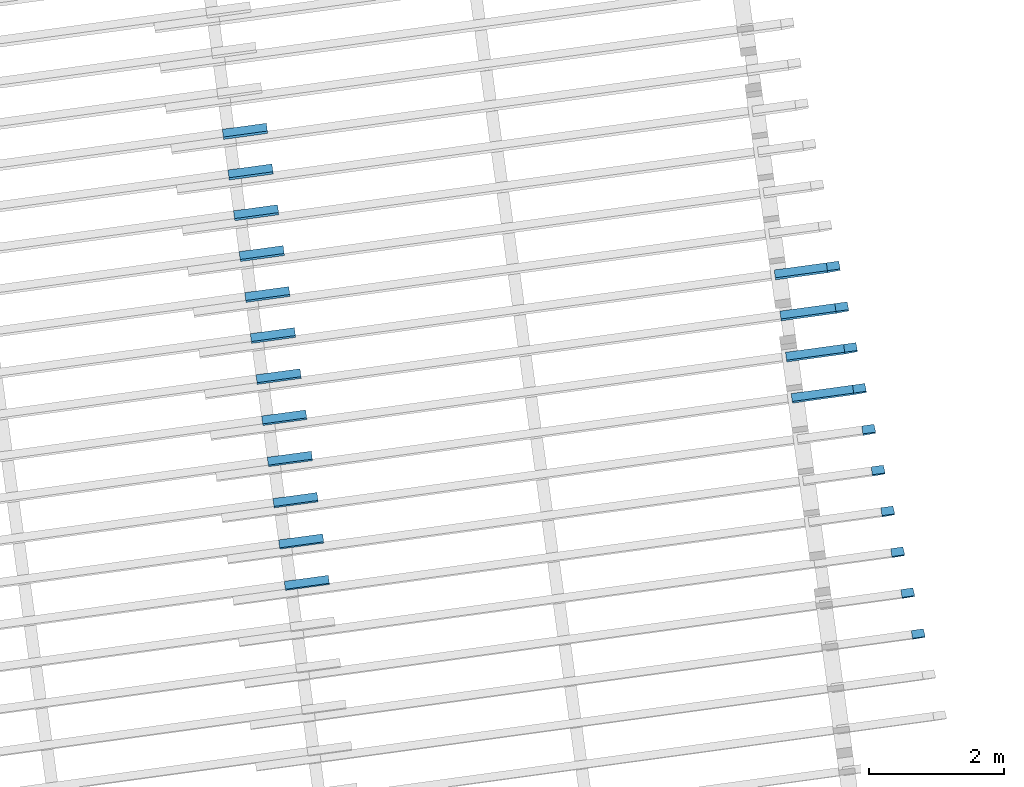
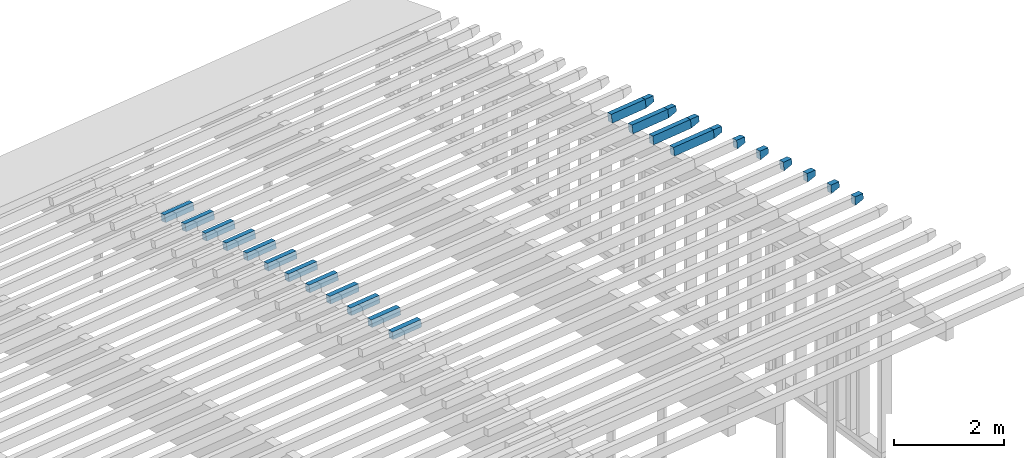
# One storey, part 17 of 18: 26 building element parts, 22 elements without a shape of their own.
"""IFC2X3 building model written with IfcOpenShell, lengths in metres."""

from ifc_helpers import new_model, entity, si_unit, converted_unit, derived_unit, money_unit, direction, frame, origin_with_axes, place, context, subcontext, project, spatial, faceted_brep, material, type_object, element, aggregate, save


model = new_model("IFC2X3")

# Units and contexts
model_context = context("Model", 3, precision=1e-05, world=origin_with_axes(), true_north=direction((0.0, 1.0)))
body_context = subcontext(model_context, "Body", "Model", "MODEL_VIEW")
ifc_project = project(units=[si_unit("LENGTHUNIT", "METRE"), si_unit("AREAUNIT", "SQUARE_METRE"), si_unit("VOLUMEUNIT", "CUBIC_METRE"), converted_unit("PLANEANGLEUNIT", "DEGREE", entity("IfcPlaneAngleMeasure", 0.0174532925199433), si_unit("PLANEANGLEUNIT", "RADIAN"), dimensions=[0, 0, 0, 0, 0, 0, 0]), money_unit("EUR"), converted_unit("TIMEUNIT", "Year", entity("IfcTimeMeasure", 31557600.0), si_unit("TIMEUNIT", "SECOND"), dimensions=[0, 0, 1, 0, 0, 0, 0]), si_unit("MASSUNIT", "GRAM", prefix="KILO"), si_unit("THERMODYNAMICTEMPERATUREUNIT", "DEGREE_CELSIUS"), si_unit("LUMINOUSINTENSITYUNIT", "LUMEN"), si_unit("ENERGYUNIT", "JOULE", prefix="MEGA"), derived_unit("THERMALCONDUCTANCEUNIT", [(si_unit("POWERUNIT", "WATT"), 1), (si_unit("LENGTHUNIT", "METRE"), -1), (si_unit("THERMODYNAMICTEMPERATUREUNIT", "KELVIN"), -1)]), derived_unit("SPECIFICHEATCAPACITYUNIT", [(si_unit("ENERGYUNIT", "JOULE"), 1), (si_unit("MASSUNIT", "GRAM", prefix="KILO"), -1), (si_unit("THERMODYNAMICTEMPERATUREUNIT", "KELVIN"), -1)]), derived_unit("MASSDENSITYUNIT", [(si_unit("MASSUNIT", "GRAM", prefix="KILO"), 1), (si_unit("VOLUMEUNIT", "CUBIC_METRE"), -1)])], contexts=[model_context])

# Site, building, storey
site_placement = place(None, origin_with_axes())
site = spatial("IfcSite", under=ifc_project, at=site_placement, Name="Gelände", CompositionType="ELEMENT")
building_placement = place(site_placement, origin_with_axes())
building = spatial("IfcBuilding", under=site, at=building_placement, Name="Gebäude", CompositionType="ELEMENT")
storey_placement = place(building_placement, frame((0.0, 0.0, 5.5), z_axis=(0.0, 0.0, 1.0), x_axis=(1.0, 0.0, 0.0)))
storey = spatial("IfcBuildingStorey", under=building, at=storey_placement, Name="OG", CompositionType="ELEMENT", Elevation=5.5)

# Beam, building element part
beam_type_1 = type_object("IfcBeamType", Name="Verschiedene Strukturen - 3 Segmente - 120 x 200 x 12890 (660+11570+660)", PredefinedType="NOTDEFINED")
beam_1_placement = place(storey_placement, frame((92.94976169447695, -144.1076839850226, 4.448573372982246), z_axis=(0.0, 0.0, 1.0), x_axis=(0.1357111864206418, -0.9907484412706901, 0.0)))
beam_1 = element("IfcBeam", 1, at=beam_1_placement, inside=storey, type_object=beam_type_1, Name="Unterzug-031")
ifc_material = material(Name="Bauholz")
building_element_part_1_placement = place(beam_1_placement, origin_with_axes())
building_element_part_1 = element("IfcBuildingElementPart", 2, at=building_element_part_1_placement, material=ifc_material, Name="Bauholz", context=body_context, shape_type="Brep", body=[
    faceted_brep([(-0.03839909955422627, 12.22957971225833, -0.1665097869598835), (-0.03839909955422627, 12.88957971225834, -0.1665097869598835), (0.08055505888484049, 12.88957971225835, -0.1507013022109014), (0.08055505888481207, 12.22957971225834, -0.1507013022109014), (-0.05947707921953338, 12.22957971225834, -0.007904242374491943), (-0.05947707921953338, 12.88957971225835, -0.007904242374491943), (0.05947707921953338, 12.88957971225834, 0.007904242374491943), (0.05947707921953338, 12.22957971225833, 0.007904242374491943)], [[[0, 1, 2, 3]], [[4, 5, 1, 0]], [[2, 1, 5, 6]], [[3, 2, 6, 7]], [[4, 0, 3, 7]], [[7, 6, 5, 4]]]),
])
aggregate(beam_1, [building_element_part_1])

beam_2_placement = place(storey_placement, frame((93.11820253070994, -145.3373725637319, 4.600733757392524), z_axis=(0.0, 0.0, 1.0), x_axis=(0.1357111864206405, -0.9907484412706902, 0.0)))
beam_2 = element("IfcBeam", 3, at=beam_2_placement, inside=storey, type_object=beam_type_1, Name="Unterzug-031")
building_element_part_2_placement = place(beam_2_placement, origin_with_axes())
building_element_part_2 = element("IfcBuildingElementPart", 4, at=building_element_part_2_placement, material=ifc_material, Name="Bauholz", context=body_context, shape_type="Brep", body=[
    faceted_brep([(-0.04176212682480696, 12.22957971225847, -0.1656982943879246), (-0.04176212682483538, 12.88957971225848, -0.1656982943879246), (0.07748768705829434, 12.88957971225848, -0.1523012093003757), (0.07748768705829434, 12.22957971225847, -0.1523012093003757), (-0.05962490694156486, 12.22957971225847, -0.006698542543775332), (-0.05962490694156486, 12.88957971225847, -0.006698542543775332), (0.05962490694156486, 12.88957971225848, 0.006698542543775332), (0.05962490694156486, 12.22957971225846, 0.006698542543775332)], [[[0, 1, 2, 3]], [[4, 5, 1, 0]], [[2, 1, 5, 6]], [[3, 2, 6, 7]], [[4, 0, 3, 7]], [[7, 6, 5, 4]]]),
])
aggregate(beam_2, [building_element_part_2])

beam_3_placement = place(storey_placement, frame((93.0339298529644, -144.7221467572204, 4.527794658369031), z_axis=(0.0, 0.0, 1.0), x_axis=(0.1357111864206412, -0.9907484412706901, 0.0)))
beam_3 = element("IfcBeam", 5, at=beam_3_placement, inside=storey, type_object=beam_type_1, Name="Unterzug-031")
building_element_part_3_placement = place(beam_3_placement, origin_with_axes())
building_element_part_3 = element("IfcBuildingElementPart", 6, at=building_element_part_3_placement, material=ifc_material, Name="Bauholz", context=body_context, shape_type="Brep", body=[
    faceted_brep([(-0.04008266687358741, 12.2295797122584, -0.1661125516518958), (-0.04008266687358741, 12.88957971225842, -0.1661125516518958), (0.07902542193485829, 12.88957971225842, -0.1515090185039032), (0.07902542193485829, 12.22957971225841, -0.1515090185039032), (-0.05955404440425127, 12.2295797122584, -0.00730176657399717), (-0.05955404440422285, 12.88957971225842, -0.00730176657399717), (0.05955404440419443, 12.88957971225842, 0.00730176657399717), (0.05955404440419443, 12.22957971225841, 0.00730176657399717)], [[[0, 1, 2, 3]], [[4, 5, 1, 0]], [[2, 1, 5, 6]], [[3, 2, 6, 7]], [[4, 0, 3, 7]], [[7, 6, 5, 4]]]),
])
aggregate(beam_3, [building_element_part_3])

beam_4_placement = place(storey_placement, frame((92.19837051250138, -138.6222139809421, 3.454434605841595), z_axis=(0.0, 0.0, 1.0), x_axis=(0.1357111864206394, -0.9907484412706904, 0.0)))
beam_4 = element("IfcBeam", 7, at=beam_4_placement, inside=storey, type_object=beam_type_1, Name="Unterzug-031")
building_element_part_4_placement = place(beam_4_placement, origin_with_axes())
building_element_part_4 = element("IfcBuildingElementPart", 8, at=building_element_part_4_placement, material=ifc_material, Name="Bauholz", context=body_context, shape_type="Brep", body=[
    faceted_brep([(-0.02309614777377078, 12.22957971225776, -0.1693120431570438), (-0.02309614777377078, 12.88957971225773, -0.1693120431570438), (0.09392725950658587, 12.88957971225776, -0.1427503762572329), (0.09392725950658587, 12.22957971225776, -0.1427503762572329), (-0.05851170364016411, 12.22957971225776, -0.01328083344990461), (-0.05851170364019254, 12.88957971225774, -0.01328083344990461), (0.05851170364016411, 12.88957971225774, 0.01328083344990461), (0.05851170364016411, 12.22957971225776, 0.01328083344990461)], [[[0, 1, 2, 3]], [[4, 5, 1, 0]], [[2, 1, 5, 6]], [[3, 2, 6, 7]], [[4, 0, 3, 7]], [[7, 6, 5, 4]]]),
])
aggregate(beam_4, [building_element_part_4])

beam_5_placement = place(storey_placement, frame((92.28121145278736, -139.2269875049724, 3.589753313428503), z_axis=(0.0, 0.0, 1.0), x_axis=(0.1357111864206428, -0.9907484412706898, 0.0)))
beam_5 = element("IfcBeam", 9, at=beam_5_placement, inside=storey, type_object=beam_type_1, Name="Unterzug-031")
building_element_part_5_placement = place(beam_5_placement, origin_with_axes())
building_element_part_5 = element("IfcBuildingElementPart", 10, at=building_element_part_5_placement, material=ifc_material, Name="Bauholz", context=body_context, shape_type="Brep", body=[
    faceted_brep([(-0.02488668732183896, 12.22957971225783, -0.1690581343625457), (-0.02488668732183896, 12.88957971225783, -0.1690581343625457), (0.09241126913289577, 12.88957971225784, -0.1437364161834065), (0.09241126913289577, 12.22957971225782, -0.1437364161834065), (-0.05864897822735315, 12.22957971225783, -0.0126608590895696), (-0.05864897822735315, 12.88957971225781, -0.0126608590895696), (0.05864897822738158, 12.88957971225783, 0.0126608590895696), (0.05864897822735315, 12.22957971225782, 0.0126608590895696)], [[[0, 1, 2, 3]], [[4, 5, 1, 0]], [[2, 1, 5, 6]], [[3, 2, 6, 7]], [[4, 0, 3, 7]], [[7, 6, 5, 4]]]),
])
aggregate(beam_5, [building_element_part_5])

beam_6_placement = place(storey_placement, frame((92.36423404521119, -139.8330871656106, 3.718885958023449), z_axis=(0.0, 0.0, 1.0), x_axis=(0.1357111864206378, -0.9907484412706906, 0.0)))
beam_6 = element("IfcBeam", 11, at=beam_6_placement, inside=storey, type_object=beam_type_1, Name="Unterzug-031")
building_element_part_6_placement = place(beam_6_placement, origin_with_axes())
building_element_part_6 = element("IfcBuildingElementPart", 12, at=building_element_part_6_placement, material=ifc_material, Name="Bauholz", context=body_context, shape_type="Brep", body=[
    faceted_brep([(-0.02667492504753, 12.2295797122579, -0.1687852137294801), (-0.02667492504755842, 12.8895797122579, -0.1687852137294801), (0.09088451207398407, 12.8895797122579, -0.14470661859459), (0.09088451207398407, 12.22957971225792, -0.14470661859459), (-0.0587797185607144, 12.2295797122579, -0.01203929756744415), (-0.0587797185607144, 12.88957971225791, -0.01203929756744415), (0.05877971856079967, 12.8895797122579, 0.01203929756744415), (0.05877971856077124, 12.22957971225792, 0.01203929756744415)], [[[0, 1, 2, 3]], [[4, 5, 1, 0]], [[2, 1, 5, 6]], [[3, 2, 6, 7]], [[4, 0, 3, 7]], [[7, 6, 5, 4]]]),
])
aggregate(beam_6, [building_element_part_6])

beam_7_placement = place(storey_placement, frame((92.44742978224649, -140.4404508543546, 3.841819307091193), z_axis=(0.0, 0.0, 1.0), x_axis=(0.1357111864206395, -0.9907484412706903, 0.0)))
beam_7 = element("IfcBeam", 13, at=beam_7_placement, inside=storey, type_object=beam_type_1, Name="Unterzug-031")
building_element_part_7_placement = place(beam_7_placement, origin_with_axes())
building_element_part_7 = element("IfcBuildingElementPart", 14, at=building_element_part_7_placement, material=ifc_material, Name="Bauholz", context=body_context, shape_type="Brep", body=[
    faceted_brep([(-0.02845985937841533, 12.22957971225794, -0.1684934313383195), (-0.02845985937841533, 12.88957971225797, -0.1684934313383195), (0.08934784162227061, 12.88957971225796, -0.1456604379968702), (0.08934784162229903, 12.22957971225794, -0.1456604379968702), (-0.05890385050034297, 12.22957971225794, -0.01141649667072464), (-0.05890385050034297, 12.88957971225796, -0.01141649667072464), (0.05890385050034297, 12.88957971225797, 0.01141649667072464), (0.05890385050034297, 12.22957971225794, 0.01141649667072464)], [[[0, 1, 2, 3]], [[4, 5, 1, 0]], [[2, 1, 5, 6]], [[3, 2, 6, 7]], [[4, 0, 3, 7]], [[7, 6, 5, 4]]]),
])
aggregate(beam_7, [building_element_part_7])

beam_8_placement = place(storey_placement, frame((92.5307901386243, -141.0490163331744, 3.958540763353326), z_axis=(0.0, 0.0, 1.0), x_axis=(0.1357111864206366, -0.9907484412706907, 0.0)))
beam_8 = element("IfcBeam", 15, at=beam_8_placement, inside=storey, type_object=beam_type_1, Name="Unterzug-031")
building_element_part_8_placement = place(beam_8_placement, origin_with_axes())
building_element_part_8 = element("IfcBuildingElementPart", 16, at=building_element_part_8_placement, material=ifc_material, Name="Bauholz", context=body_context, shape_type="Brep", body=[
    faceted_brep([(-0.0299257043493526, 12.22957971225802, -0.1682392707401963), (-0.0299257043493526, 12.88957971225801, -0.1682392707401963), (0.08807631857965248, 12.88957971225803, -0.1464327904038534), (0.08807631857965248, 12.22957971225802, -0.1464327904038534), (-0.05900101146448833, 12.22957971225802, -0.01090324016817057), (-0.05900101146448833, 12.88957971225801, -0.01090324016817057), (0.05900101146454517, 12.88957971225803, 0.01090324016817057), (0.05900101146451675, 12.22957971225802, 0.01090324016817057)], [[[0, 1, 2, 3]], [[4, 5, 1, 0]], [[2, 1, 5, 6]], [[3, 2, 6, 7]], [[4, 0, 3, 7]], [[7, 6, 5, 4]]]),
])
aggregate(beam_8, [building_element_part_8])

beam_9_placement = place(storey_placement, frame((92.61430657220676, -141.6587212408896, 4.069038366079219), z_axis=(0.0, 0.0, 1.0), x_axis=(0.1357111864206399, -0.9907484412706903, 0.0)))
beam_9 = element("IfcBeam", 17, at=beam_9_placement, inside=storey, type_object=beam_type_1, Name="Unterzug-031")
building_element_part_9_placement = place(beam_9_placement, origin_with_axes())
building_element_part_9 = element("IfcBuildingElementPart", 18, at=building_element_part_9_placement, material=ifc_material, Name="Bauholz", context=body_context, shape_type="Brep", body=[
    faceted_brep([(-0.03162721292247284, 12.22957971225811, -0.1679277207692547), (-0.03162721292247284, 12.8895797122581, -0.1679277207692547), (0.08658950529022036, 12.8895797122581, -0.1473168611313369), (0.08658950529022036, 12.2295797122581, -0.1473168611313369), (-0.05910835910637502, 12.22957971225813, -0.01030542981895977), (-0.05910835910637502, 12.8895797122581, -0.01030542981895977), (0.05910835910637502, 12.8895797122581, 0.01030542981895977), (0.05910835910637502, 12.22957971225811, 0.01030542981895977)], [[[0, 1, 2, 3]], [[4, 5, 1, 0]], [[2, 1, 5, 6]], [[3, 2, 6, 7]], [[4, 0, 3, 7]], [[7, 6, 5, 4]]]),
])
aggregate(beam_9, [building_element_part_9])

beam_10_placement = place(storey_placement, frame((92.7817734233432, -142.8812993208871, 4.271317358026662), z_axis=(0.0, 0.0, 1.0), x_axis=(0.1357111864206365, -0.9907484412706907, 0.0)))
beam_10 = element("IfcBeam", 19, at=beam_10_placement, inside=storey, type_object=beam_type_1, Name="Unterzug-031")
building_element_part_10_placement = place(beam_10_placement, origin_with_axes())
building_element_part_10 = element("IfcBuildingElementPart", 20, at=building_element_part_10_placement, material=ifc_material, Name="Bauholz", context=body_context, shape_type="Brep", body=[
    faceted_brep([(-0.03502033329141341, 12.22957971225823, -0.1672530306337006), (-0.03502033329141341, 12.88957971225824, -0.1672530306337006), (0.08358941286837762, 12.88957971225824, -0.149039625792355), (0.0835894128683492, 12.22957971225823, -0.149039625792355), (-0.05930487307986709, 12.22957971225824, -0.009106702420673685), (-0.05930487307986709, 12.88957971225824, -0.009106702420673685), (0.05930487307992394, 12.88957971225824, 0.009106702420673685), (0.05930487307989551, 12.22957971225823, 0.009106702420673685)], [[[0, 1, 2, 3]], [[4, 5, 1, 0]], [[2, 1, 5, 6]], [[3, 2, 6, 7]], [[4, 0, 3, 7]], [[7, 6, 5, 4]]]),
])
aggregate(beam_10, [building_element_part_10])

beam_11_placement = place(storey_placement, frame((92.69797052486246, -142.26950309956, 4.17330079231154), z_axis=(0.0, 0.0, 1.0), x_axis=(0.1357111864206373, -0.9907484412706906, 0.0)))
beam_11 = element("IfcBeam", 21, at=beam_11_placement, inside=storey, type_object=beam_type_1, Name="Unterzug-031")
building_element_part_11_placement = place(beam_11_placement, origin_with_axes())
building_element_part_11 = element("IfcBuildingElementPart", 22, at=building_element_part_11_placement, material=ifc_material, Name="Bauholz", context=body_context, shape_type="Brep", body=[
    faceted_brep([(-0.03332548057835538, 12.22957971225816, -0.1675989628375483), (-0.03332548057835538, 12.88957971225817, -0.1675989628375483), (0.08509381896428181, 12.88957971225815, -0.1481858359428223), (0.08509381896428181, 12.22957971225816, -0.1481858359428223), (-0.05920964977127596, 12.22957971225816, -0.009706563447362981), (-0.05920964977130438, 12.88957971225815, -0.009706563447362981), (0.05920964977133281, 12.88957971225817, 0.009706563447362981), (0.05920964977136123, 12.22957971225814, 0.009706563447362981)], [[[0, 1, 2, 3]], [[4, 5, 1, 0]], [[2, 1, 5, 6]], [[3, 2, 6, 7]], [[4, 0, 3, 7]], [[7, 6, 5, 4]]]),
])
aggregate(beam_11, [building_element_part_11])

beam_12_placement = place(storey_placement, frame((92.86570668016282, -143.4940472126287, 4.363078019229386), z_axis=(0.0, 0.0, 1.0), x_axis=(0.1357111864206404, -0.9907484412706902, 0.0)))
beam_12 = element("IfcBeam", 23, at=beam_12_placement, inside=storey, type_object=beam_type_1, Name="Unterzug-031")
building_element_part_12_placement = place(beam_12_placement, origin_with_axes())
building_element_part_12 = element("IfcBuildingElementPart", 24, at=building_element_part_12_placement, material=ifc_material, Name="Bauholz", context=body_context, shape_type="Brep", body=[
    faceted_brep([(-0.03671159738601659, 12.22957971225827, -0.1668899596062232), (-0.03671159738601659, 12.88957971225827, -0.1668899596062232), (0.08207644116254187, 12.88957971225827, -0.1498781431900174), (0.08207644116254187, 12.22957971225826, -0.1498781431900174), (-0.05939401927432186, 12.22957971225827, -0.008505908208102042), (-0.05939401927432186, 12.88957971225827, -0.008505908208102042), (0.05939401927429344, 12.88957971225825, 0.008505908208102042), (0.05939401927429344, 12.22957971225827, 0.008505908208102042)], [[[0, 1, 2, 3]], [[4, 5, 1, 0]], [[2, 1, 5, 6]], [[3, 2, 6, 7]], [[4, 0, 3, 7]], [[7, 6, 5, 4]]]),
])
aggregate(beam_12, [building_element_part_12])

beam_type_2 = type_object("IfcBeamType", Name="Verschiedene Strukturen - 4 Segmente - 120 x 200 x 10110 (970+7659+1291+190)", PredefinedType="NOTDEFINED")
beam_13_placement = place(storey_placement, frame((104.7196111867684, -145.7532908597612, 4.791438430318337), z_axis=(0.0, 0.0, 1.0), x_axis=(0.13571118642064, -0.9907484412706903, 0.0)))
beam_13 = element("IfcBeam", 25, at=beam_13_placement, inside=storey, type_object=beam_type_2, Name="Unterzug-031")
building_element_part_13_placement = place(beam_13_placement, origin_with_axes())
building_element_part_13 = element("IfcBuildingElementPart", 26, at=building_element_part_13_placement, material=ifc_material, Name="Bauholz", context=body_context, shape_type="Brep", body=[
    faceted_brep([(0.0296447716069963, 10.10993509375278, -0.1179991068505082), (0.02964477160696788, 10.1099350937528, 0.002390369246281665), (0.05980589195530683, 10.1099350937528, 0.004822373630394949), (0.06945063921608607, 10.1099350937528, -0.1147894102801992), (-0.05980589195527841, 10.09972674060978, -0.004822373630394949), (-0.04993065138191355, 10.10085372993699, -0.1272926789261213), (-0.05980589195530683, 9.919935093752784, -0.004822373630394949), (0.05980589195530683, 9.91993509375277, 0.004822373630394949), (0.0742730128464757, 9.919935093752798, -0.1745953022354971), (-0.04533877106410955, 9.919935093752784, -0.184240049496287)], [[[0, 1, 2, 3]], [[4, 1, 0, 5]], [[1, 4, 6, 7, 2]], [[3, 2, 7, 8]], [[5, 0, 3, 8, 9]], [[4, 5, 9, 6]], [[8, 7, 6, 9]]]),
])
aggregate(beam_13, [building_element_part_13])

beam_type_3 = type_object("IfcBeamType", Name="Verschiedene Strukturen - 4 Segmente - 120 x 200 x 10040 (970+7659+1220+190)", PredefinedType="NOTDEFINED")
beam_14_placement = place(storey_placement, frame((104.6350613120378, -145.1360413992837, 4.738673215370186), z_axis=(0.0, 0.0, 1.0), x_axis=(0.1357111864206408, -0.9907484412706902, 0.0)))
beam_14 = element("IfcBeam", 27, at=beam_14_placement, inside=storey, type_object=beam_type_3, Name="Unterzug-031")
building_element_part_14_placement = place(beam_14_placement, origin_with_axes())
building_element_part_14 = element("IfcBuildingElementPart", 28, at=building_element_part_14_placement, material=ifc_material, Name="Bauholz", context=body_context, shape_type="Brep", body=[
    faceted_brep([(0.03605752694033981, 10.03956696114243, -0.1172544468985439), (0.03605752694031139, 10.03956696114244, 0.003224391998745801), (0.05976153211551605, 10.03956696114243, 0.005344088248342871), (0.070449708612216, 10.03956696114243, -0.1141789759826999), (-0.03398157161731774, 10.0315739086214, -0.003038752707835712), (-0.03398157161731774, 10.0315739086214, -0.1260517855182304), (-0.05976153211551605, 10.02887395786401, -0.005344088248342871), (-0.05976153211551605, 9.849566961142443, -0.005344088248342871), (0.05976153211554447, 9.849566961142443, 0.005344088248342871), (0.07579379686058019, 9.849566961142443, -0.1739405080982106), (-0.04372926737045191, 9.849566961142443, -0.1846286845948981), (-0.04880487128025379, 10.03002145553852, -0.1278695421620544)], [[[0, 1, 2, 3]], [[4, 1, 0, 5]], [[4, 6, 7, 8, 2, 1]], [[3, 2, 8, 9]], [[5, 0, 3, 9, 10, 11]], [[6, 4, 5, 11]], [[6, 11, 10, 7]], [[9, 8, 7, 10]]]),
])
aggregate(beam_14, [building_element_part_14])

beam_type_4 = type_object("IfcBeamType", Name="Verschiedene Strukturen - 4 Segmente - 120 x 200 x 9973 (970+7659+1153+190)", PredefinedType="NOTDEFINED")
beam_15_placement = place(storey_placement, frame((104.5505891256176, -144.5193590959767, 4.679531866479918), z_axis=(0.0, 0.0, 1.0), x_axis=(0.1357111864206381, -0.9907484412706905, 0.0)))
beam_15 = element("IfcBeam", 29, at=beam_15_placement, inside=storey, type_object=beam_type_4, Name="Unterzug-031")
building_element_part_15_placement = place(beam_15_placement, origin_with_axes())
building_element_part_15 = element("IfcBuildingElementPart", 30, at=building_element_part_15_placement, material=ifc_material, Name="Bauholz", context=body_context, shape_type="Brep", body=[
    faceted_brep([(0.02604533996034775, 9.972671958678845, -0.1179991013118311), (0.0260453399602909, 9.97267195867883, 0.002595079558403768), (0.05970437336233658, 9.97267195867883, 0.005948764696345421), (0.07160190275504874, 9.97267195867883, -0.1134599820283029), (-0.05970437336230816, 9.963691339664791, -0.005948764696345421), (-0.04756547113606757, 9.964962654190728, -0.1277800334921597), (-0.05970437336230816, 9.782671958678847, -0.005948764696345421), (0.05970437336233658, 9.782671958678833, 0.005948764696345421), (0.07755066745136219, 9.782671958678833, -0.1731643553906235), (-0.04185807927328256, 9.782671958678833, -0.1850618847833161)], [[[0, 1, 2, 3]], [[4, 1, 0, 5]], [[1, 4, 6, 7, 2]], [[3, 2, 7, 8]], [[5, 0, 3, 8, 9]], [[4, 5, 9, 6]], [[8, 7, 6, 9]]]),
])
aggregate(beam_15, [building_element_part_15])

beam_type_5 = type_object("IfcBeamType", Name="Verschiedene Strukturen - 4 Segmente - 120 x 200 x 9909 (970+7659+1090+190)", PredefinedType="NOTDEFINED")
beam_16_placement = place(storey_placement, frame((104.4662017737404, -143.9032961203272, 4.614089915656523), z_axis=(0.0, 0.0, 1.0), x_axis=(0.1357111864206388, -0.9907484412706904, 0.0)))
beam_16 = element("IfcBeam", 31, at=beam_16_placement, inside=storey, type_object=beam_type_5, Name="Unterzug-031")
building_element_part_16_placement = place(beam_16_placement, origin_with_axes())
building_element_part_16 = element("IfcBuildingElementPart", 32, at=building_element_part_16_placement, material=ifc_material, Name="Bauholz", context=body_context, shape_type="Brep", body=[
    faceted_brep([(0.03294429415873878, 9.909241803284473, -0.11709200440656), (0.03294429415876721, 9.909241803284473, 0.003637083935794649), (0.05963765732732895, 9.909241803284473, 0.006584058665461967), (0.07280577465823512, 9.909241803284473, -0.1126912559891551), (-0.05963765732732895, 9.900413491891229, -0.006584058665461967), (-0.04620798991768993, 9.901694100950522, -0.1282284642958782), (-0.05963765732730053, 9.719241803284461, -0.006584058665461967), (0.05963765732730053, 9.719241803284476, 0.006584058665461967), (0.07938983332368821, 9.719241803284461, -0.1723289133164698), (-0.03988548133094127, 9.719241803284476, -0.1854970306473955)], [[[0, 1, 2, 3]], [[4, 1, 0, 5]], [[1, 4, 6, 7, 2]], [[3, 2, 7, 8]], [[5, 0, 3, 8, 9]], [[4, 5, 9, 6]], [[8, 7, 6, 9]]]),
])
aggregate(beam_16, [building_element_part_16])

beam_type_6 = type_object("IfcBeamType", Name="Verschiedene Strukturen - 4 Segmente - 120 x 200 x 9849 (970+7659+1030+190)", PredefinedType="NOTDEFINED")
beam_17_placement = place(storey_placement, frame((104.3819138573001, -143.2879590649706, 4.54227047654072), z_axis=(0.0, 0.0, 1.0), x_axis=(0.1357111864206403, -0.9907484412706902, 0.0)))
beam_17 = element("IfcBeam", 33, at=beam_17_placement, inside=storey, type_object=beam_type_6, Name="Unterzug-031")
building_element_part_17_placement = place(beam_17_placement, origin_with_axes())
building_element_part_17 = element("IfcBuildingElementPart", 34, at=building_element_part_17_placement, material=ifc_material, Name="Bauholz", context=body_context, shape_type="Brep", body=[
    faceted_brep([(0.02507569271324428, 9.849267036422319, -0.1178485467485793), (0.02507569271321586, 9.849267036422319, 0.00301673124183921), (0.05957045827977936, 9.849267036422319, 0.007166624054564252), (0.07390370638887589, 9.849267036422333, -0.1119742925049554), (-0.05957045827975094, 9.841195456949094, -0.007166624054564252), (-0.04498521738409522, 9.842586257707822, -0.1284021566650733), (-0.05957045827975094, 9.659267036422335, -0.007166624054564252), (0.05957045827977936, 9.659267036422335, 0.007166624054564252), (0.081070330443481, 9.659267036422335, -0.1715447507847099), (-0.0380705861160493, 9.659267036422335, -0.1858779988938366)], [[[0, 1, 2, 3]], [[4, 1, 0, 5]], [[1, 4, 6, 7, 2]], [[3, 2, 7, 8]], [[5, 0, 3, 8, 9]], [[4, 5, 9, 6]], [[8, 7, 6, 9]]]),
])
aggregate(beam_17, [building_element_part_17])

beam_type_7 = type_object("IfcBeamType", Name="Verschiedene Strukturen - 4 Segmente - 120 x 200 x 9793 (970+7659+974+190)", PredefinedType="NOTDEFINED")
beam_18_placement = place(storey_placement, frame((104.2977254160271, -142.6733482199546, 4.46423359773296), z_axis=(0.0, 0.0, 1.0), x_axis=(0.135711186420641, -0.9907484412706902, 0.0)))
beam_18 = element("IfcBeam", 35, at=beam_18_placement, inside=storey, type_object=beam_type_7, Name="Unterzug-031")
building_element_part_18_placement = place(beam_18_placement, origin_with_axes())
building_element_part_18 = element("IfcBuildingElementPart", 36, at=building_element_part_18_placement, material=ifc_material, Name="Bauholz", context=body_context, shape_type="Brep", body=[
    faceted_brep([(0.0253426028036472, 9.792737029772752, -0.1177059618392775), (0.0253426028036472, 9.792737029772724, 0.003318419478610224), (0.05949214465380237, 9.792737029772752, 0.00779004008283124), (0.07507222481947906, 9.792737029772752, -0.1111942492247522), (-0.05949214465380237, 9.78544129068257, -0.00779004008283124), (-0.04366873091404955, 9.78680209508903, -0.1286326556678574), (-0.05949214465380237, 9.602737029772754, -0.00779004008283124), (0.05949214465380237, 9.602737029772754, 0.00779004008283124), (0.08286226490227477, 9.60273702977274, -0.1706863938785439), (-0.03612202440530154, 9.60273702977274, -0.1862664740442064)], [[[0, 1, 2, 3]], [[4, 1, 0, 5]], [[1, 4, 6, 7, 2]], [[3, 2, 7, 8]], [[5, 0, 3, 8, 9]], [[4, 5, 9, 6]], [[8, 7, 6, 9]]]),
])
aggregate(beam_18, [building_element_part_18])

# Beam, building element parts
beam_type_8 = type_object("IfcBeamType", Name="Verschiedene Strukturen - 4 Segmente - 120 x 200 x 9740 (970+7659+920+190)", PredefinedType="NOTDEFINED")
beam_19_placement = place(storey_placement, frame((104.2136436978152, -142.0595164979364, 4.380047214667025), z_axis=(0.0, 0.0, 1.0), x_axis=(0.13571118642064, -0.9907484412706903, 0.0)))
beam_19 = element("IfcBeam", 37, at=beam_19_placement, inside=storey, type_object=beam_type_8, Name="Unterzug-031")
building_element_part_19_placement = place(beam_19_placement, origin_with_axes())
building_element_part_19 = element("IfcBuildingElementPart", 38, at=building_element_part_19_placement, material=ifc_material, Name="Bauholz", context=body_context, shape_type="Brep", body=[
    faceted_brep([(0.08449689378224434, 8.62917672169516, -0.1698831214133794), (-0.03433235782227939, 8.629176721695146, -0.1866046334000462), (-0.03433235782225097, 9.549639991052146, -0.1866046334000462), (0.08449689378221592, 9.549639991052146, -0.1698831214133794), (0.05941462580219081, 8.62917672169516, 0.008360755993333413), (-0.05941462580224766, 8.62917672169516, -0.008360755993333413), (-0.05941462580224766, 9.549639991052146, -0.008360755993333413), (0.05941462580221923, 9.549639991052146, 0.008360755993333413)], [[[0, 1, 2, 3]], [[4, 5, 1, 0]], [[1, 5, 6, 2]], [[7, 3, 2, 6]], [[4, 0, 3, 7]], [[5, 4, 7, 6]]]),
])
building_element_part_20_placement = place(beam_19_placement, origin_with_axes())
building_element_part_20 = element("IfcBuildingElementPart", 39, at=building_element_part_20_placement, material=ifc_material, Name="Bauholz", context=body_context, shape_type="Brep", body=[
    faceted_brep([(0.02749466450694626, 9.739639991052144, -0.1173132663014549), (0.02749466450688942, 9.739639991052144, 0.00386901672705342), (0.05941462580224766, 9.739639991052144, 0.008360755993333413), (0.07613613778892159, 9.739639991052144, -0.1104684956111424), (-0.05941462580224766, 9.732165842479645, -0.008360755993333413), (-0.04242850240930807, 9.733626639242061, -0.1290704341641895), (-0.05941462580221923, 9.549639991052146, -0.008360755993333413), (0.05941462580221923, 9.549639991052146, 0.008360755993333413), (0.08449689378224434, 9.54963999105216, -0.1698831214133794), (-0.03433235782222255, 9.549639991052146, -0.1866046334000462)], [[[0, 1, 2, 3]], [[4, 1, 0, 5]], [[1, 4, 6, 7, 2]], [[3, 2, 7, 8]], [[5, 0, 3, 8, 9]], [[4, 5, 9, 6]], [[8, 7, 6, 9]]]),
])
aggregate(beam_19, [building_element_part_19, building_element_part_20])

beam_type_9 = type_object("IfcBeamType", Name="Verschiedene Strukturen - 4 Segmente - 120 x 200 x 9690 (970+7659+871+190)", PredefinedType="NOTDEFINED")
beam_20_placement = place(storey_placement, frame((104.1296893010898, -141.4466142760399, 4.289462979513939), z_axis=(0.0, 0.0, 1.0), x_axis=(0.1357111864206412, -0.9907484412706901, 0.0)))
beam_20 = element("IfcBeam", 40, at=beam_20_placement, inside=storey, type_object=beam_type_9, Name="Unterzug-031")
building_element_part_21_placement = place(beam_20_placement, origin_with_axes())
building_element_part_21 = element("IfcBuildingElementPart", 41, at=building_element_part_21_placement, material=ifc_material, Name="Bauholz", context=body_context, shape_type="Brep", body=[
    faceted_brep([(-0.03259558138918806, 9.499962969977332, -0.1869158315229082), (0.08607303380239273, 9.499962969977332, -0.1690900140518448), (0.08607303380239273, 8.629176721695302, -0.1690900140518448), (-0.03259558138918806, 8.629176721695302, -0.1869158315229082), (-0.05933430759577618, 9.499962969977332, -0.008912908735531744), (0.0593343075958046, 9.499962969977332, 0.008912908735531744), (0.05933430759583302, 8.629176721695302, 0.008912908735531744), (-0.0593343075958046, 8.629176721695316, -0.008912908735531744)], [[[0, 1, 2, 3]], [[0, 4, 5, 1]], [[1, 5, 6, 2]], [[3, 2, 6, 7]], [[4, 0, 3, 7]], [[5, 4, 7, 6]]]),
])
building_element_part_22_placement = place(beam_20_placement, origin_with_axes())
building_element_part_22 = element("IfcBuildingElementPart", 42, at=building_element_part_22_placement, material=ifc_material, Name="Bauholz", context=body_context, shape_type="Brep", body=[
    faceted_brep([(0.02007976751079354, 9.689962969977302, -0.1183300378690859), (0.02007976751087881, 9.689962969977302, 0.003016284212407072), (0.0593343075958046, 9.689962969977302, 0.008912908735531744), (0.07716012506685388, 9.689962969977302, -0.1097557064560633), (-0.05933430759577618, 9.683875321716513, -0.008912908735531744), (-0.04128781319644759, 9.685258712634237, -0.1290505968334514), (-0.0593343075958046, 9.499962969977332, -0.008912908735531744), (0.0593343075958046, 9.499962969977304, 0.008912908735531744), (0.08607303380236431, 9.499962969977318, -0.1690900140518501), (-0.03259558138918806, 9.499962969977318, -0.1869158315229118)], [[[0, 1, 2, 3]], [[4, 1, 0, 5]], [[1, 4, 6, 7, 2]], [[3, 2, 7, 8]], [[5, 0, 3, 8, 9]], [[4, 5, 9, 6]], [[8, 7, 6, 9]]]),
])
aggregate(beam_20, [building_element_part_21, building_element_part_22])

beam_type_10 = type_object("IfcBeamType", Name="Verschiedene Strukturen - 4 Segmente - 120 x 200 x 9644 (970+7659+825+190)", PredefinedType="NOTDEFINED")
beam_21_placement = place(storey_placement, frame((104.0458601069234, -140.834626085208, 4.19267556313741), z_axis=(0.0, 0.0, 1.0), x_axis=(0.1357111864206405, -0.9907484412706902, 0.0)))
beam_21 = element("IfcBeam", 43, at=beam_21_placement, inside=storey, type_object=beam_type_10, Name="Unterzug-031")
building_element_part_23_placement = place(beam_21_placement, origin_with_axes())
building_element_part_23 = element("IfcBuildingElementPart", 44, at=building_element_part_23_placement, material=ifc_material, Name="Bauholz", context=body_context, shape_type="Brep", body=[
    faceted_brep([(0.03417075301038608, 9.643691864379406, -0.1160373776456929), (0.03417075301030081, 9.643691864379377, 0.005516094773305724), (0.0592331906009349, 9.643691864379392, 0.009561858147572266), (0.0783569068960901, 9.643691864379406, -0.1089045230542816), (0.00677062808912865, 9.641591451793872, 0.001092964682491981), (0.00677062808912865, 9.641591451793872, -0.1211323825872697), (-0.0592331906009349, 9.637147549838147, -0.009561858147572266), (-0.0592331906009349, 9.453691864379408, -0.009561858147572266), (0.05923319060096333, 9.453691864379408, 0.009561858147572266), (0.08791876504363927, 9.453691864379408, -0.1681377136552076), (-0.03054761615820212, 9.453691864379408, -0.1872614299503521), (-0.03984581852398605, 9.638452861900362, -0.1296615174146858)], [[[0, 1, 2, 3]], [[4, 1, 0, 5]], [[4, 6, 7, 8, 2, 1]], [[3, 2, 8, 9]], [[5, 0, 3, 9, 10, 11]], [[6, 4, 5, 11]], [[6, 11, 10, 7]], [[9, 8, 7, 10]]]),
])
building_element_part_24_placement = place(beam_21_placement, origin_with_axes())
building_element_part_24 = element("IfcBuildingElementPart", 45, at=building_element_part_24_placement, material=ifc_material, Name="Bauholz", context=body_context, shape_type="Brep", body=[
    faceted_brep([(0.08791876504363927, 8.629176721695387, -0.1681377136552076), (-0.03054761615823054, 8.629176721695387, -0.1872614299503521), (-0.03054761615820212, 9.45369186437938, -0.1872614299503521), (0.08791876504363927, 9.45369186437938, -0.1681377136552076), (0.0592331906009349, 8.629176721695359, 0.009561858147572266), (-0.05923319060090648, 8.629176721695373, -0.009561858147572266), (-0.0592331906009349, 9.45369186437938, -0.009561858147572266), (0.05923319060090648, 9.45369186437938, 0.009561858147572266)], [[[0, 1, 2, 3]], [[4, 5, 1, 0]], [[1, 5, 6, 2]], [[7, 3, 2, 6]], [[4, 0, 3, 7]], [[5, 4, 7, 6]]]),
])
aggregate(beam_21, [building_element_part_23, building_element_part_24])

beam_type_11 = type_object("IfcBeamType", Name="Verschiedene Strukturen - 4 Segmente - 120 x 200 x 9601 (970+7659+782+190)", PredefinedType="NOTDEFINED")
beam_22_placement = place(storey_placement, frame((103.9621682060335, -140.223640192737, 4.089610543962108), z_axis=(0.0, 0.0, 1.0), x_axis=(0.1357111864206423, -0.99074844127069, 0.0)))
beam_22 = element("IfcBeam", 46, at=beam_22_placement, inside=storey, type_object=beam_type_11, Name="Unterzug-031")
building_element_part_25_placement = place(beam_22_placement, origin_with_axes())
building_element_part_25 = element("IfcBuildingElementPart", 47, at=building_element_part_25_placement, material=ifc_material, Name="Bauholz", context=body_context, shape_type="Brep", body=[
    faceted_brep([(0.01776953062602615, 9.600811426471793, -0.1187055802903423), (0.01776953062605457, 9.600811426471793, 0.003055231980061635), (0.05913232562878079, 9.600811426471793, 0.01016700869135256), (0.07946634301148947, 9.600811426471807, -0.108097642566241), (-0.05913232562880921, 9.595633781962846, -0.01016700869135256), (-0.03859523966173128, 9.59701650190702, -0.1296127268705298), (-0.05913232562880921, 9.410811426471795, -0.01016700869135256), (0.05913232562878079, 9.41081142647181, 0.01016700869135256), (0.08963335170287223, 9.410811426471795, -0.167229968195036), (-0.02863129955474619, 9.410811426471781, -0.1875639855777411)], [[[0, 1, 2, 3]], [[4, 1, 0, 5]], [[1, 4, 6, 7, 2]], [[3, 2, 7, 8]], [[5, 0, 3, 8, 9]], [[4, 5, 9, 6]], [[8, 7, 6, 9]]]),
])
building_element_part_26_placement = place(beam_22_placement, origin_with_axes())
building_element_part_26 = element("IfcBuildingElementPart", 48, at=building_element_part_26_placement, material=ifc_material, Name="Bauholz", context=body_context, shape_type="Brep", body=[
    faceted_brep([(0.08963335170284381, 8.629193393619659, -0.167229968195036), (-0.02863129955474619, 8.629193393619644, -0.1875639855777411), (-0.02863129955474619, 9.410811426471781, -0.1875639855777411), (0.08963335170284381, 9.410811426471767, -0.167229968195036), (0.05913232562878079, 8.629193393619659, 0.01016700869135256), (-0.05913232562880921, 8.629193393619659, -0.01016700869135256), (-0.05913232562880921, 9.410811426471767, -0.01016700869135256), (0.05913232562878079, 9.410811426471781, 0.01016700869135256)], [[[0, 1, 2, 3]], [[4, 5, 1, 0]], [[1, 5, 6, 2]], [[7, 3, 2, 6]], [[4, 0, 3, 7]], [[5, 4, 7, 6]]]),
])
aggregate(beam_22, [building_element_part_25, building_element_part_26])

save(model, "model.ifc")
